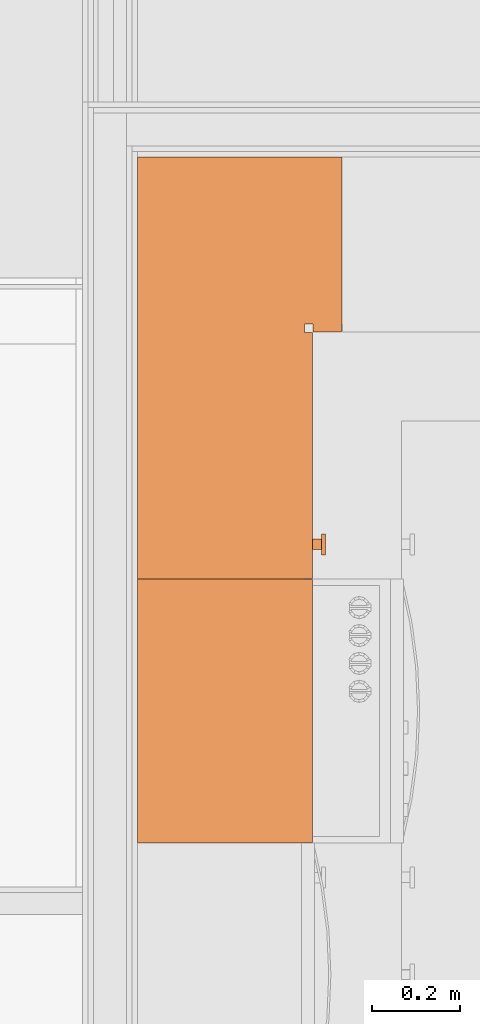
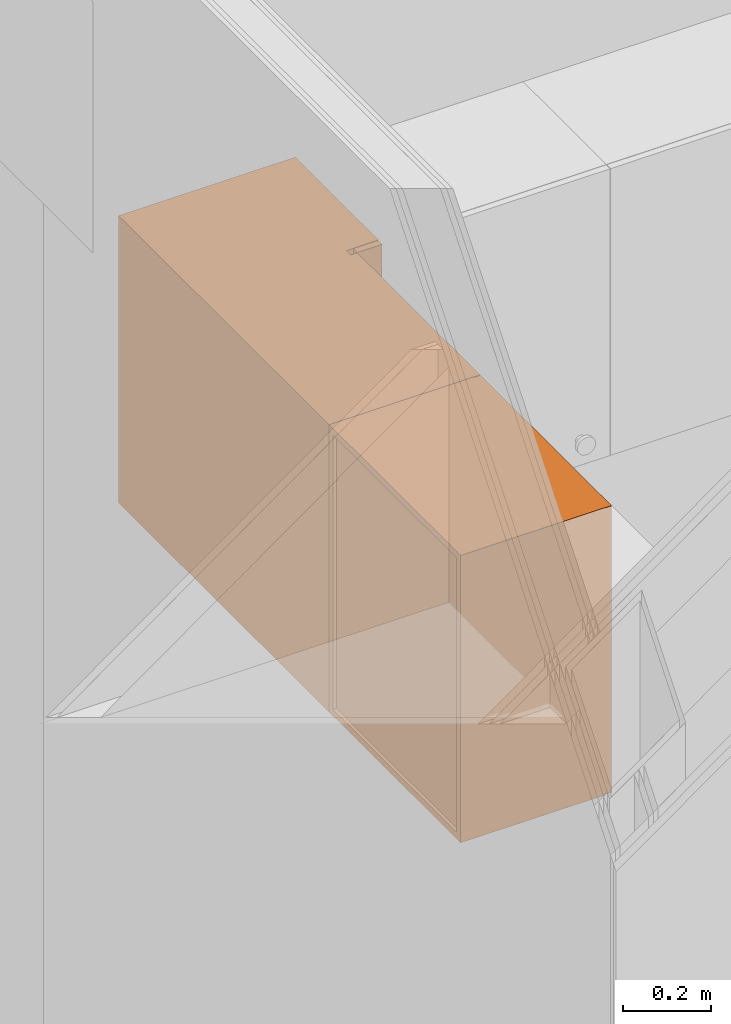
# One storey, part 154 of 165: 2 proxies.
"""IFC2X3 building model written with IfcOpenShell, lengths in millimetres."""

from ifc_helpers import new_model, entity, si_unit, converted_unit, derived_unit, money_unit, direction, frame, origin_with_axes, place, context, subcontext, project, spatial, faceted_brep, type_object, element, save


model = new_model("IFC2X3")

# Units and contexts
model_context = context("Model", 3, precision=0.01, world=origin_with_axes(), true_north=direction((0.0, 1.0)))
body_context = subcontext(model_context, "Body", "Model", "MODEL_VIEW")
ifc_project = project(units=[si_unit("LENGTHUNIT", "METRE", prefix="MILLI"), si_unit("AREAUNIT", "SQUARE_METRE"), si_unit("VOLUMEUNIT", "CUBIC_METRE"), converted_unit("PLANEANGLEUNIT", "DEGREE", entity("IfcPlaneAngleMeasure", 0.0174532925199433), si_unit("PLANEANGLEUNIT", "RADIAN"), dimensions=[0, 0, 0, 0, 0, 0, 0]), money_unit("EUR"), converted_unit("TIMEUNIT", "Year", entity("IfcTimeMeasure", 31556926.0), si_unit("TIMEUNIT", "SECOND"), dimensions=[0, 0, 1, 0, 0, 0, 0]), si_unit("MASSUNIT", "GRAM", prefix="KILO"), si_unit("THERMODYNAMICTEMPERATUREUNIT", "DEGREE_CELSIUS"), si_unit("LUMINOUSINTENSITYUNIT", "LUMEN"), si_unit("ENERGYUNIT", "JOULE", prefix="MEGA"), derived_unit("THERMALCONDUCTANCEUNIT", [(si_unit("POWERUNIT", "WATT"), 1), (si_unit("LENGTHUNIT", "METRE"), -1), (si_unit("THERMODYNAMICTEMPERATUREUNIT", "KELVIN"), -1)]), derived_unit("SPECIFICHEATCAPACITYUNIT", [(si_unit("ENERGYUNIT", "JOULE"), 1), (si_unit("MASSUNIT", "GRAM", prefix="KILO"), -1), (si_unit("THERMODYNAMICTEMPERATUREUNIT", "KELVIN"), -1)]), derived_unit("MASSDENSITYUNIT", [(si_unit("MASSUNIT", "GRAM", prefix="KILO"), 1), (si_unit("VOLUMEUNIT", "CUBIC_METRE"), -1)])], contexts=[model_context])

# Site, building, storey
site_placement = place(None, origin_with_axes())
site = spatial("IfcSite", under=ifc_project, at=site_placement, Name="Site", CompositionType="ELEMENT")
building_placement = place(site_placement, origin_with_axes())
building = spatial("IfcBuilding", under=site, at=building_placement, Name="Naam gebouw", CompositionType="ELEMENT")
storey_placement = place(building_placement, origin_with_axes())
storey = spatial("IfcBuildingStorey", under=building, at=storey_placement, Name="Begane grond", CompositionType="ELEMENT", Elevation=0.0)

# Proxies
building_element_proxy_type_1 = type_object("IfcBuildingElementProxyType", Name="Bovenkast recht 26", PredefinedType="NOTDEFINED")
proxy_1_placement = place(storey_placement, frame((20900.00167438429, 12144.99881672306, 300.0000000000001), z_axis=(0.0, 0.0, 1.0), x_axis=(0.0, 1.0, 0.0)))
element("IfcBuildingElementProxy", 1, at=proxy_1_placement, inside=storey, type_object=building_element_proxy_type_1, Name="_Leeg", context=body_context, shape_type="Brep", body=[
    faceted_brep([(-1.0, -380.0, 1501.0), (-1.0, -398.0, 1501.0), (-599.0, -398.0, 1501.0), (-599.0, -380.0, 1501.0), (-1.0, -379.9999999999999, 2299.0), (-1.0, -397.9999999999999, 2299.0), (-599.0, -397.9999999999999, 2299.0), (-599.0, -379.9999999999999, 2299.0)], [[[0, 1, 2, 3]], [[4, 5, 1, 0]], [[1, 5, 6, 2]], [[3, 2, 6, 7]], [[0, 3, 7, 4]], [[7, 6, 5, 4]]]),
    faceted_brep([(-18.0, -380.0, 1500.0), (-18.0, -380.0, 1518.0), (-582.0, -380.0, 1518.0), (-582.0, -380.0, 1500.0), (-18.0, 0.0, 1500.0), (-18.0, 0.0, 1518.0), (-582.0, 0.0, 1518.0), (-582.0, 0.0, 1500.0)], [[[0, 1, 2, 3]], [[4, 5, 1, 0]], [[1, 5, 6, 2]], [[3, 2, 6, 7]], [[0, 3, 7, 4]], [[7, 6, 5, 4]]]),
    faceted_brep([(-18.0, -380.0, 2282.0), (-18.0, -380.0, 2300.0), (-582.0, -380.0, 2300.0), (-582.0, -380.0, 2282.0), (-18.0, 0.0, 2282.0), (-18.0, 0.0, 2300.0), (-582.0, 0.0, 2300.0), (-582.0, 0.0, 2282.0)], [[[0, 1, 2, 3]], [[4, 5, 1, 0]], [[1, 5, 6, 2]], [[3, 2, 6, 7]], [[0, 3, 7, 4]], [[7, 6, 5, 4]]]),
    faceted_brep([(0.0, 0.0, 1500.0), (0.0, 0.0, 2300.0), (0.0, -380.0, 2300.0), (0.0, -380.0, 1500.0), (-18.0, 0.0, 1500.0), (-18.0, 0.0, 2300.0), (-18.0, -380.0, 2300.0), (-18.0, -380.0, 1500.0)], [[[0, 1, 2, 3]], [[4, 5, 1, 0]], [[1, 5, 6, 2]], [[3, 2, 6, 7]], [[0, 3, 7, 4]], [[7, 6, 5, 4]]]),
    faceted_brep([(-600.0, -380.0, 1500.0), (-600.0, -380.0, 2300.0), (-600.0, 0.0, 2300.0), (-600.0, 0.0, 1500.0), (-582.0, -380.0, 1500.0), (-582.0, -380.0, 2300.0), (-582.0, 0.0, 2300.0), (-582.0, 0.0, 1500.0)], [[[0, 1, 2, 3]], [[4, 5, 1, 0]], [[1, 5, 6, 2]], [[3, 2, 6, 7]], [[0, 3, 7, 4]], [[7, 6, 5, 4]]]),
    faceted_brep([(-582.0, -9.0, 1518.0), (-582.0, -9.0, 2282.0), (-18.00000000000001, -9.0, 2282.0), (-18.00000000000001, -9.0, 1518.0), (-582.0, -18.0, 1518.0), (-582.0, -18.0, 2282.0), (-18.00000000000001, -18.0, 2282.0), (-18.00000000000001, -18.0, 1518.0)], [[[0, 1, 2, 3]], [[4, 5, 1, 0]], [[1, 5, 6, 2]], [[3, 2, 6, 7]], [[0, 3, 7, 4]], [[7, 6, 5, 4]]]),
])
building_element_proxy_type_2 = type_object("IfcBuildingElementProxyType", Name="Bovenkast hoek L 26", PredefinedType="NOTDEFINED")
proxy_2_placement = place(storey_placement, frame((20899.99920567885, 13104.99822616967, 300.0000000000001), z_axis=(0.0, 0.0, 1.0), x_axis=(0.0, 1.0, 0.0)))
element("IfcBuildingElementProxy", 2, at=proxy_2_placement, inside=storey, type_object=building_element_proxy_type_2, Name="_Leeg", context=body_context, shape_type="Brep", body=[
    faceted_brep([(-18.0, -446.9998343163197, 1891.0), (-18.0, -446.9998343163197, 1909.0), (-380.0, -446.9998343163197, 1909.0), (-380.0, -446.9998343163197, 1891.0), (-18.0, -18.0, 1891.0), (-18.0, -18.0, 1909.0), (-941.9994094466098, -17.99999999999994, 1909.0), (-941.9994094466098, -379.9999999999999, 1909.0), (-380.0, -380.0, 1909.0), (-380.0, -380.0, 1891.0), (-941.9994094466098, -379.9999999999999, 1891.0), (-941.9994094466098, -17.99999999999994, 1891.0)], [[[0, 1, 2, 3]], [[4, 5, 1, 0]], [[1, 5, 6, 7, 8, 2]], [[3, 2, 8, 9]], [[0, 3, 9, 10, 11, 4]], [[11, 6, 5, 4]], [[10, 7, 6, 11]], [[9, 8, 7, 10]]]),
    faceted_brep([(-892.8176930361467, -397.9999999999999, 1576.916221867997), (-893.0000000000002, -397.9999999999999, 1579.0), (-892.8176930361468, -397.9999999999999, 1581.083778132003), (-892.2763114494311, -397.9999999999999, 1583.104241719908), (-891.3923048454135, -397.9999999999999, 1585.0), (-890.192533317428, -397.9999999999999, 1586.713451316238), (-888.7134513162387, -397.9999999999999, 1588.192533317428), (-887.0000000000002, -397.9999999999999, 1589.392304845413), (-885.1042417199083, -397.9999999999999, 1590.276311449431), (-883.0837781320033, -397.9999999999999, 1590.817693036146), (-881.0000000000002, -397.9999999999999, 1591.0), (-878.9162218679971, -397.9999999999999, 1590.817693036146), (-876.8957582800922, -397.9999999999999, 1590.276311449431), (-875.0000000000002, -397.9999999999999, 1589.392304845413), (-873.2865486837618, -397.9999999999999, 1588.192533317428), (-871.8074666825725, -397.9999999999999, 1586.713451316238), (-870.6076951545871, -397.9999999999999, 1585.0), (-869.7236885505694, -397.9999999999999, 1583.104241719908), (-869.1823069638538, -397.9999999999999, 1581.083778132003), (-869.0000000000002, -397.9999999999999, 1579.0), (-869.1823069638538, -397.9999999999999, 1576.916221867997), (-869.7236885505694, -397.9999999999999, 1574.895758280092), (-870.6076951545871, -397.9999999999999, 1573.0), (-871.8074666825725, -397.9999999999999, 1571.286548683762), (-873.2865486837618, -397.9999999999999, 1569.807466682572), (-875.0000000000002, -397.9999999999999, 1568.607695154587), (-876.8957582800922, -397.9999999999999, 1567.723688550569), (-878.9162218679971, -397.9999999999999, 1567.182306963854), (-881.0000000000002, -397.9999999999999, 1567.0), (-883.0837781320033, -397.9999999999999, 1567.182306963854), (-885.1042417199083, -397.9999999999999, 1567.723688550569), (-887.0000000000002, -397.9999999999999, 1568.607695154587), (-888.7134513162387, -397.9999999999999, 1569.807466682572), (-890.192533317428, -397.9999999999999, 1571.286548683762), (-891.3923048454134, -397.9999999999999, 1573.0), (-892.2763114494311, -397.9999999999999, 1574.895758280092), (-892.8176930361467, -418.0, 1576.916221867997), (-893.0000000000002, -418.0, 1579.0), (-892.8176930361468, -418.0, 1581.083778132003), (-892.2763114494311, -418.0, 1583.104241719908), (-891.3923048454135, -418.0, 1585.0), (-890.192533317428, -418.0, 1586.713451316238), (-888.7134513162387, -418.0, 1588.192533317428), (-887.0000000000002, -418.0, 1589.392304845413), (-885.1042417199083, -418.0, 1590.276311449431), (-883.0837781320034, -418.0, 1590.817693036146), (-881.0000000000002, -418.0, 1591.0), (-878.9162218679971, -418.0, 1590.817693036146), (-876.8957582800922, -418.0, 1590.276311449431), (-875.0000000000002, -418.0, 1589.392304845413), (-873.2865486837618, -418.0, 1588.192533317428), (-871.8074666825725, -418.0, 1586.713451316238), (-870.6076951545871, -418.0, 1585.0), (-869.7236885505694, -418.0, 1583.104241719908), (-869.1823069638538, -418.0, 1581.083778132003), (-869.0000000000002, -418.0, 1579.0), (-869.1823069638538, -418.0, 1576.916221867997), (-869.7236885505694, -418.0, 1574.895758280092), (-870.6076951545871, -418.0, 1573.0), (-871.8074666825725, -418.0, 1571.286548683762), (-873.2865486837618, -418.0, 1569.807466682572), (-875.0000000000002, -418.0, 1568.607695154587), (-876.8957582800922, -418.0, 1567.723688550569), (-878.9162218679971, -418.0, 1567.182306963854), (-881.0000000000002, -418.0, 1567.0), (-883.0837781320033, -418.0, 1567.182306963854), (-885.1042417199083, -418.0, 1567.723688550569), (-887.0000000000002, -418.0, 1568.607695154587), (-888.7134513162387, -418.0, 1569.807466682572), (-890.192533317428, -418.0, 1571.286548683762), (-891.3923048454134, -418.0, 1573.0), (-892.2763114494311, -418.0, 1574.895758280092)], [[[0, 1, 2, 3, 4, 5, 6, 7, 8, 9, 10, 11, 12, 13, 14, 15, 16, 17, 18, 19, 20, 21, 22, 23, 24, 25, 26, 27, 28, 29, 30, 31, 32, 33, 34, 35]], [[0, 36, 37, 1]], [[1, 37, 38, 2]], [[2, 38, 39, 3]], [[3, 39, 40, 4]], [[4, 40, 41, 5]], [[5, 41, 42, 6]], [[6, 42, 43, 7]], [[7, 43, 44, 8]], [[8, 44, 45, 9]], [[9, 45, 46, 10]], [[10, 46, 47, 11]], [[11, 47, 48, 12]], [[12, 48, 49, 13]], [[13, 49, 50, 14]], [[14, 50, 51, 15]], [[15, 51, 52, 16]], [[16, 52, 53, 17]], [[17, 53, 54, 18]], [[18, 54, 55, 19]], [[19, 55, 56, 20]], [[20, 56, 57, 21]], [[21, 57, 58, 22]], [[22, 58, 59, 23]], [[23, 59, 60, 24]], [[24, 60, 61, 25]], [[25, 61, 62, 26]], [[26, 62, 63, 27]], [[27, 63, 64, 28]], [[28, 64, 65, 29]], [[29, 65, 66, 30]], [[30, 66, 67, 31]], [[31, 67, 68, 32]], [[32, 68, 69, 33]], [[33, 69, 70, 34]], [[34, 70, 71, 35]], [[35, 71, 36, 0]], [[36, 71, 70, 69, 68, 67, 66, 65, 64, 63, 62, 61, 60, 59, 58, 57, 56, 55, 54, 53, 52, 51, 50, 49, 48, 47, 46, 45, 44, 43, 42, 41, 40, 39, 38, 37]]]),
    faceted_brep([(-904.6353860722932, -418.0, 1574.832443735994), (-905.0000000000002, -418.0, 1579.0), (-904.6353860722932, -418.0, 1583.167556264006), (-903.5526228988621, -418.0, 1587.208483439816), (-901.7846096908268, -418.0, 1591.0), (-899.3850666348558, -418.0, 1594.426902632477), (-896.4269026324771, -418.0, 1597.385066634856), (-893.0000000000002, -418.0, 1599.784609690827), (-889.2084834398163, -418.0, 1601.552622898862), (-885.1675562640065, -418.0, 1602.635386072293), (-881.0000000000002, -418.0, 1603.0), (-876.8324437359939, -418.0, 1602.635386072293), (-872.7915165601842, -418.0, 1601.552622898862), (-869.0000000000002, -418.0, 1599.784609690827), (-865.5730973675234, -418.0, 1597.385066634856), (-862.6149333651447, -418.0, 1594.426902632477), (-860.2153903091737, -418.0, 1591.0), (-858.4473771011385, -418.0, 1587.208483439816), (-857.3646139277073, -418.0, 1583.167556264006), (-857.0000000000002, -418.0, 1579.0), (-857.3646139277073, -418.0, 1574.832443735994), (-858.4473771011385, -418.0, 1570.791516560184), (-860.2153903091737, -418.0, 1567.0), (-862.6149333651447, -418.0, 1563.573097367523), (-865.5730973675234, -418.0, 1560.614933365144), (-869.0000000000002, -418.0, 1558.215390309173), (-872.7915165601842, -418.0, 1556.447377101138), (-876.8324437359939, -418.0, 1555.364613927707), (-881.0000000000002, -418.0, 1555.0), (-885.1675562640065, -418.0, 1555.364613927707), (-889.2084834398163, -418.0, 1556.447377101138), (-893.0000000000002, -418.0, 1558.215390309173), (-896.4269026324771, -418.0, 1560.614933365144), (-899.3850666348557, -418.0, 1563.573097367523), (-901.7846096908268, -418.0, 1567.0), (-903.552622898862, -418.0, 1570.791516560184), (-904.6353860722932, -428.0, 1574.832443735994), (-905.0000000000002, -428.0, 1579.0), (-904.6353860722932, -428.0, 1583.167556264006), (-903.5526228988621, -428.0, 1587.208483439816), (-901.7846096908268, -428.0, 1591.0), (-899.3850666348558, -428.0, 1594.426902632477), (-896.4269026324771, -428.0, 1597.385066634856), (-893.0000000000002, -428.0, 1599.784609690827), (-889.2084834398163, -428.0, 1601.552622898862), (-885.1675562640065, -428.0, 1602.635386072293), (-881.0000000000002, -428.0, 1603.0), (-876.8324437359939, -428.0, 1602.635386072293), (-872.7915165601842, -428.0, 1601.552622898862), (-869.0000000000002, -428.0, 1599.784609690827), (-865.5730973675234, -428.0, 1597.385066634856), (-862.6149333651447, -428.0, 1594.426902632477), (-860.2153903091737, -428.0, 1591.0), (-858.4473771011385, -428.0, 1587.208483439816), (-857.3646139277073, -428.0, 1583.167556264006), (-857.0000000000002, -428.0, 1579.0), (-857.3646139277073, -428.0, 1574.832443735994), (-858.4473771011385, -428.0, 1570.791516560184), (-860.2153903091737, -428.0, 1567.0), (-862.6149333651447, -428.0, 1563.573097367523), (-865.5730973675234, -428.0, 1560.614933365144), (-869.0000000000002, -428.0, 1558.215390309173), (-872.7915165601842, -428.0, 1556.447377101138), (-876.8324437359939, -428.0, 1555.364613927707), (-881.0000000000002, -428.0, 1555.0), (-885.1675562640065, -428.0, 1555.364613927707), (-889.2084834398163, -428.0, 1556.447377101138), (-893.0000000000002, -428.0, 1558.215390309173), (-896.4269026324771, -428.0, 1560.614933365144), (-899.3850666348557, -428.0, 1563.573097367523), (-901.7846096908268, -428.0, 1567.0), (-903.552622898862, -428.0, 1570.791516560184)], [[[0, 1, 2, 3, 4, 5, 6, 7, 8, 9, 10, 11, 12, 13, 14, 15, 16, 17, 18, 19, 20, 21, 22, 23, 24, 25, 26, 27, 28, 29, 30, 31, 32, 33, 34, 35]], [[0, 36, 37, 1]], [[1, 37, 38, 2]], [[2, 38, 39, 3]], [[3, 39, 40, 4]], [[4, 40, 41, 5]], [[5, 41, 42, 6]], [[6, 42, 43, 7]], [[7, 43, 44, 8]], [[8, 44, 45, 9]], [[9, 45, 46, 10]], [[10, 46, 47, 11]], [[11, 47, 48, 12]], [[12, 48, 49, 13]], [[13, 49, 50, 14]], [[14, 50, 51, 15]], [[15, 51, 52, 16]], [[16, 52, 53, 17]], [[17, 53, 54, 18]], [[18, 54, 55, 19]], [[19, 55, 56, 20]], [[20, 56, 57, 21]], [[21, 57, 58, 22]], [[22, 58, 59, 23]], [[23, 59, 60, 24]], [[24, 60, 61, 25]], [[25, 61, 62, 26]], [[26, 62, 63, 27]], [[27, 63, 64, 28]], [[28, 64, 65, 29]], [[29, 65, 66, 30]], [[30, 66, 67, 31]], [[31, 67, 68, 32]], [[32, 68, 69, 33]], [[33, 69, 70, 34]], [[34, 70, 71, 35]], [[35, 71, 36, 0]], [[36, 71, 70, 69, 68, 67, 66, 65, 64, 63, 62, 61, 60, 59, 58, 57, 56, 55, 54, 53, 52, 51, 50, 49, 48, 47, 46, 45, 44, 43, 42, 41, 40, 39, 38, 37]]]),
    faceted_brep([(-399.0, -380.0, 1501.0), (-399.0, -398.0, 1501.0), (-958.9994094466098, -397.9999999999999, 1501.0), (-958.9994094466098, -379.9999999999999, 1501.0), (-399.0, -379.9999999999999, 2299.0), (-399.0, -397.9999999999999, 2299.0), (-958.9994094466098, -397.9999999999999, 2299.0), (-958.9994094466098, -379.9999999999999, 2299.0)], [[[0, 1, 2, 3]], [[4, 5, 1, 0]], [[1, 5, 6, 2]], [[3, 2, 6, 7]], [[0, 3, 7, 4]], [[7, 6, 5, 4]]]),
    faceted_brep([(-380.0, -399.0, 1501.0), (-380.0, -463.9998343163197, 1501.0), (-398.0, -463.9998343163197, 1501.0), (-398.0, -399.0, 1501.0), (-379.9999999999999, -399.0, 2299.0), (-379.9999999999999, -463.9998343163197, 2299.0), (-397.9999999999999, -463.9998343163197, 2299.0), (-397.9999999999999, -399.0, 2299.0)], [[[0, 1, 2, 3]], [[0, 4, 5, 1]], [[1, 5, 6, 2]], [[3, 2, 6, 7]], [[4, 0, 3, 7]], [[5, 4, 7, 6]]]),
    faceted_brep([(0.0, -446.9998343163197, 1500.0), (0.0, -446.9998343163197, 1518.0), (-380.0, -446.9998343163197, 1518.0), (-380.0, -446.9998343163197, 1500.0), (0.0, 0.0, 1500.0), (0.0, 0.0, 1518.0), (-941.9994094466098, 0.0, 1518.0), (-941.9994094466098, -379.9999999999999, 1518.0), (-380.0, -380.0, 1518.0), (-380.0, -380.0, 1500.0), (-941.9994094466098, -379.9999999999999, 1500.0), (-941.9994094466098, 0.0, 1500.0)], [[[0, 1, 2, 3]], [[4, 5, 1, 0]], [[1, 5, 6, 7, 8, 2]], [[3, 2, 8, 9]], [[0, 3, 9, 10, 11, 4]], [[11, 6, 5, 4]], [[10, 7, 6, 11]], [[9, 8, 7, 10]]]),
    faceted_brep([(0.0, -446.9998343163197, 2282.0), (0.0, -446.9998343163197, 2300.0), (-380.0, -446.9998343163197, 2300.0), (-380.0, -446.9998343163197, 2282.0), (0.0, 0.0, 2282.0), (0.0, 0.0, 2300.0), (-941.9994094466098, 0.0, 2300.0), (-941.9994094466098, -379.9999999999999, 2300.0), (-380.0, -380.0, 2300.0), (-380.0, -380.0, 2282.0), (-941.9994094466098, -379.9999999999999, 2282.0), (-941.9994094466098, 0.0, 2282.0)], [[[0, 1, 2, 3]], [[4, 5, 1, 0]], [[1, 5, 6, 7, 8, 2]], [[3, 2, 8, 9]], [[0, 3, 9, 10, 11, 4]], [[11, 6, 5, 4]], [[10, 7, 6, 11]], [[9, 8, 7, 10]]]),
    faceted_brep([(0.0, -464.9998343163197, 1500.0), (0.0, -464.9998343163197, 2300.0), (-380.0, -464.9998343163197, 2300.0), (-380.0, -464.9998343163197, 1500.0), (0.0, -446.9998343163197, 1500.0), (0.0, -446.9998343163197, 2300.0), (-380.0, -446.9998343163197, 2300.0), (-380.0, -446.9998343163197, 1500.0)], [[[0, 1, 2, 3]], [[4, 5, 1, 0]], [[1, 5, 6, 2]], [[3, 2, 6, 7]], [[0, 3, 7, 4]], [[7, 6, 5, 4]]]),
    faceted_brep([(0.0, 0.0, 1518.0), (0.0, 0.0, 2282.0), (0.0, -446.9998343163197, 2282.0), (0.0, -446.9998343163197, 1518.0), (-18.0, -18.0, 1518.0), (-18.0, -18.0, 2282.0), (-18.0, -446.9998343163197, 2282.0), (-18.0, -446.9998343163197, 1518.0)], [[[0, 1, 2, 3]], [[4, 5, 1, 0]], [[1, 5, 6, 2]], [[3, 2, 6, 7]], [[0, 3, 7, 4]], [[7, 6, 5, 4]]]),
    faceted_brep([(-959.9994094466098, -379.9999999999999, 1500.0), (-959.9994094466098, -379.9999999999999, 2300.0), (-959.9994094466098, 0.0, 2300.0), (-959.9994094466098, 0.0, 1500.0), (-941.9994094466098, -379.9999999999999, 1500.0), (-941.9994094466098, -379.9999999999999, 2300.0), (-941.9994094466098, 0.0, 2300.0), (-941.9994094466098, 0.0, 1500.0)], [[[0, 1, 2, 3]], [[4, 5, 1, 0]], [[1, 5, 6, 2]], [[3, 2, 6, 7]], [[0, 3, 7, 4]], [[7, 6, 5, 4]]]),
    faceted_brep([(-941.9994094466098, 0.0, 1518.0), (-941.9994094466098, 0.0, 2282.0), (0.0, 0.0, 2282.0), (0.0, 0.0, 1518.0), (-941.9994094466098, -17.99999999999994, 1518.0), (-941.9994094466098, -17.99999999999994, 2282.0), (-18.00000000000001, -18.0, 2282.0), (-18.00000000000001, -18.0, 1518.0)], [[[0, 1, 2, 3]], [[4, 5, 1, 0]], [[1, 5, 6, 2]], [[3, 2, 6, 7]], [[0, 3, 7, 4]], [[7, 6, 5, 4]]]),
])

save(model, "model.ifc")
